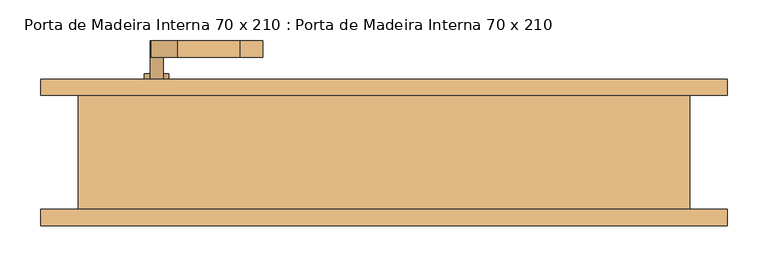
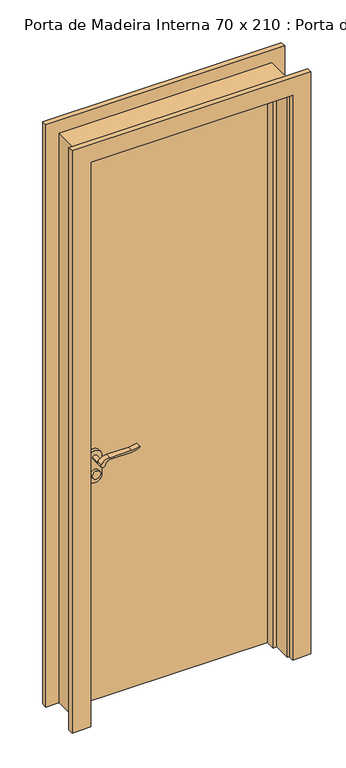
"""IFC4 building model written with IfcOpenShell, lengths in millimetres: door geometry, Porta de Madeira Interna 70 x 210 : Porta de Madeira Interna 70 x 210."""

from ifc_helpers import new_model, si_unit, point, frame, frame_2d, origin, origin_with_axes, place, context, project, spatial, polyline, circle_curve, trimmed, segment, composite_curve, outline, extrude, faceted_brep, source, transform, mapped, element, save


def porta_de_madeira_interna_70_x_210_porta_de_madeira_interna_d0067c94(model_context):
    return source(origin(), model_context, "Body", "SolidModel", [
        extrude(outline(composite_curve([segment(trimmed(circle_curve(frame_2d((854.4, -279.0)), 15.0), [point((854.4, -264.0))], [point((854.4, -294.0))], False, "CARTESIAN"), True, "CONTINUOUS"), segment(trimmed(circle_curve(frame_2d((854.4, -279.0)), 15.0), [point((854.4, -294.0))], [point((854.4, -264.0))], False, "CARTESIAN"), True, "CONTINUOUS")], self_intersect=False)), frame((0.0, 83.975, 0.0), z_axis=(0.0, 1.0, 0.0), x_axis=(0.0, 0.0, 1.0)), (0.0, 0.0, 1.0), 10.0),
        extrude(outline(composite_curve([segment(trimmed(circle_curve(frame_2d((854.4, -279.0)), 15.0), [point((854.4, -264.0))], [point((854.4, -294.0))], False, "CARTESIAN"), True, "CONTINUOUS"), segment(trimmed(circle_curve(frame_2d((854.4, -279.0)), 15.0), [point((854.4, -294.0))], [point((854.4, -264.0))], False, "CARTESIAN"), True, "CONTINUOUS")], self_intersect=False)), frame((0.0, 3.975, 0.0), z_axis=(0.0, 1.0, 0.0), x_axis=(0.0, 0.0, 1.0)), (0.0, 0.0, 1.0), 10.0),
        extrude(outline(composite_curve([segment(trimmed(circle_curve(frame_2d((914.4, -279.0)), 8.0), [point((919.0523287, -285.5081363))], [point((914.4, -271.0))], False, "CARTESIAN"), True, "CONTINUOUS"), segment(trimmed(circle_curve(frame_2d((909.2738613, -253.6138099)), 18.1261387), [point((914.4, -271.0))], [point((927.4, -253.6138099))], True, "CARTESIAN"), True, "CONTINUOUS"), segment(polyline([(927.4, -253.6138099), (927.4, -177.3564091)]), True, "CONTINUOUS"), segment(trimmed(circle_curve(frame_2d((986.6709207, -180.9396612)), 59.3791355), [point((927.4, -177.3564091))], [point((936.6135558, -149.0))], False, "CARTESIAN"), True, "CONTINUOUS"), segment(polyline([(936.6135558, -149.0), (939.4, -149.0)]), True, "CONTINUOUS"), segment(trimmed(circle_curve(frame_2d((1017.6850638, -177.4227909)), 83.2850902), [point((939.4, -149.0))], [point((934.4, -177.3564091))], True, "CARTESIAN"), True, "CONTINUOUS"), segment(polyline([(934.4, -177.3564091), (934.4, -253.6325667)]), True, "CONTINUOUS"), segment(trimmed(circle_curve(frame_2d((897.1555521, -255.3324871)), 37.2832219), [point((934.4, -253.6325667))], [point((919.0523287, -285.5081363))], False, "CARTESIAN"), True, "CONTINUOUS")], self_intersect=False)), frame((0.0, 113.975, 0.0), z_axis=(0.0, 1.0, 0.0), x_axis=(0.0, 0.0, 1.0)), (0.0, 0.0, 1.0), 20.0),
        extrude(outline(composite_curve([segment(trimmed(circle_curve(frame_2d((909.2738682, -253.6138122)), 18.1261318), [point((914.3999903, -271.0))], [point((927.4, -253.6138122))], True, "CARTESIAN"), True, "CONTINUOUS"), segment(polyline([(927.4, -253.6138122), (927.4, -177.3564091)]), True, "CONTINUOUS"), segment(trimmed(circle_curve(frame_2d((986.6709207, -180.9396612)), 59.3791355), [point((927.4, -177.3564091))], [point((936.6135558, -149.0))], False, "CARTESIAN"), True, "CONTINUOUS"), segment(polyline([(936.6135558, -149.0), (939.4, -149.0)]), True, "CONTINUOUS"), segment(trimmed(circle_curve(frame_2d((1017.6850638, -177.4227909)), 83.2850902), [point((939.4, -149.0))], [point((934.4, -177.3564091))], True, "CARTESIAN"), True, "CONTINUOUS"), segment(polyline([(934.4, -177.3564091), (934.4, -253.6325667)]), True, "CONTINUOUS"), segment(trimmed(circle_curve(frame_2d((897.1555521, -255.3324871)), 37.2832219), [point((934.4, -253.6325667))], [point((919.0523287, -285.5081363))], False, "CARTESIAN"), True, "CONTINUOUS"), segment(trimmed(circle_curve(frame_2d((914.4, -279.0)), 8.0), [point((919.0523287, -285.5081363))], [point((914.3999903, -271.0))], False, "CARTESIAN"), True, "CONTINUOUS")], self_intersect=False)), frame((0.0, -36.025, 0.0), z_axis=(0.0, 1.0, 0.0), x_axis=(0.0, 0.0, 1.0)), (0.0, 0.0, 1.0), 20.0),
        extrude(outline(composite_curve([segment(trimmed(circle_curve(frame_2d((914.4, -279.0)), 8.0), [point((914.4, -271.0))], [point((914.4, -287.0))], False, "CARTESIAN"), True, "CONTINUOUS"), segment(trimmed(circle_curve(frame_2d((914.4, -279.0)), 8.0), [point((914.4, -287.0))], [point((914.4, -271.0))], False, "CARTESIAN"), True, "CONTINUOUS")], self_intersect=False)), frame((0.0, 83.975, 0.0), z_axis=(0.0, 1.0, 0.0), x_axis=(0.0, 0.0, 1.0)), (0.0, 0.0, 1.0), 30.0),
        extrude(outline(composite_curve([segment(trimmed(circle_curve(frame_2d((914.4, -279.0)), 8.0), [point((914.4, -271.0))], [point((914.4, -287.0))], False, "CARTESIAN"), True, "CONTINUOUS"), segment(trimmed(circle_curve(frame_2d((914.4, -279.0)), 8.0), [point((914.4, -287.0))], [point((914.4, -271.0))], False, "CARTESIAN"), True, "CONTINUOUS")], self_intersect=False)), frame((0.0, -16.025, 0.0), z_axis=(0.0, 1.0, 0.0), x_axis=(0.0, 0.0, 1.0)), (0.0, 0.0, 1.0), 30.0),
        extrude(outline(composite_curve([segment(trimmed(circle_curve(frame_2d((844.4, -279.0)), 25.0), [point((844.4, -304.0))], [point((844.4, -254.0))], False, "CARTESIAN"), True, "CONTINUOUS"), segment(polyline([(844.4, -254.0), (914.4, -254.0)]), True, "CONTINUOUS"), segment(trimmed(circle_curve(frame_2d((914.4, -279.0)), 25.0), [point((914.4, -254.0))], [point((914.4, -304.0))], False, "CARTESIAN"), True, "CONTINUOUS"), segment(polyline([(914.4, -304.0), (844.4, -304.0)]), True, "CONTINUOUS")], self_intersect=False)), frame((0.0, 73.975, 0.0), z_axis=(0.0, 1.0, 0.0), x_axis=(0.0, 0.0, 1.0)), (0.0, 0.0, 1.0), 10.0),
        extrude(outline(composite_curve([segment(trimmed(circle_curve(frame_2d((844.4, -279.0)), 25.0), [point((844.4, -304.0))], [point((844.4, -254.0))], False, "CARTESIAN"), True, "CONTINUOUS"), segment(polyline([(844.4, -254.0), (914.4, -254.0)]), True, "CONTINUOUS"), segment(trimmed(circle_curve(frame_2d((914.4, -279.0)), 25.0), [point((914.4, -254.0))], [point((914.4, -304.0))], False, "CARTESIAN"), True, "CONTINUOUS"), segment(polyline([(914.4, -304.0), (844.4, -304.0)]), True, "CONTINUOUS")], self_intersect=False)), frame((0.0, 13.975, 0.0), z_axis=(0.0, 1.0, 0.0), x_axis=(0.0, 0.0, 1.0)), (0.0, 0.0, 1.0), 10.0),
        extrude(outline(polyline([(350.0, 26.825), (-350.0, 26.825), (-350.0, 66.825), (350.0, 66.825), (350.0, 26.825)])), origin_with_axes(), (0.0, 0.0, 1.0), 2100.0),
        faceted_brep([(375.0, 66.825, 0.0), (375.0, -73.175, 0.0), (350.0, -73.175, 0.0), (350.0, -8.1, 0.0), (337.3, -8.1, 0.0), (337.3, 26.825, 0.0), (350.0, 26.825, 0.0), (350.0, 66.825, 0.0), (375.0, 66.825, 2125.0), (375.0, -73.175, 2125.0), (-375.0, -73.175, 2125.0), (-375.0, -73.175, 0.0), (-350.0, -73.175, 0.0), (-350.0, -73.175, 2100.0), (350.0, -73.175, 2100.0), (350.0, -8.1, 2100.0), (-350.0, -8.1, 2100.0), (-350.0, -8.1, 0.0), (-337.3, -8.1, 0.0), (-337.3, -8.1, 2087.3), (337.3, -8.1, 2087.3), (337.3, 26.825, 2087.3), (-337.3, 26.825, 2087.3), (-337.3, 26.825, 0.0), (-350.0, 26.825, 0.0), (-350.0, 26.825, 2100.0), (350.0, 26.825, 2100.0), (350.0, 66.825, 2100.0), (-350.0, 66.825, 2100.0), (-350.0, 66.825, 0.0), (-375.0, 66.825, 0.0), (-375.0, 66.825, 2125.0)], [[[0, 1, 2, 3, 4, 5, 6, 7]], [[1, 0, 8, 9]], [[2, 1, 9, 10, 11, 12, 13, 14]], [[3, 2, 14, 15]], [[4, 3, 15, 16, 17, 18, 19, 20]], [[5, 4, 20, 21]], [[6, 5, 21, 22, 23, 24, 25, 26]], [[7, 6, 26, 27]], [[0, 7, 27, 28, 29, 30, 31, 8]], [[9, 8, 31, 10]], [[15, 14, 13, 16]], [[21, 20, 19, 22]], [[27, 26, 25, 28]], [[30, 29, 24, 23, 18, 17, 12, 11]], [[10, 31, 30, 11]], [[16, 13, 12, 17]], [[22, 19, 18, 23]], [[28, 25, 24, 29]]]),
        extrude(outline(polyline([(0.0, 356.35), (0.0, 421.35), (2171.35, 421.35), (2171.35, -421.35), (0.0, -421.35), (0.0, -356.35), (2106.35, -356.35), (2106.35, 356.35), (0.0, 356.35)])), frame((0.0, -93.175, 0.0), z_axis=(0.0, 1.0, 0.0), x_axis=(0.0, 0.0, 1.0)), (0.0, 0.0, 1.0), 20.0),
        extrude(outline(polyline([(0.0, 356.35), (0.0, 421.35), (2171.35, 421.35), (2171.35, -421.35), (0.0, -421.35), (0.0, -356.35), (2106.35, -356.35), (2106.35, 356.35), (0.0, 356.35)])), frame((0.0, 66.825, 0.0), z_axis=(0.0, 1.0, 0.0), x_axis=(0.0, 0.0, 1.0)), (0.0, 0.0, 1.0), 20.0),
    ])


if __name__ == "__main__":
    model = new_model("IFC4")
    model_context = context("Model", 3, world=origin())
    ifc_project = project(units=[si_unit("LENGTHUNIT", "METRE", prefix="MILLI")], contexts=[model_context])
    site = spatial("IfcSite", under=ifc_project)
    building = spatial("IfcBuilding", under=site)
    placement = place(None, origin())
    porta_de_madeira_interna_70_x_210_porta_de_madeira_interna_shape = porta_de_madeira_interna_70_x_210_porta_de_madeira_interna_d0067c94(model_context)
    element("IfcDoor", 1, ObjectType="Porta de Madeira Interna 70 x 210 : Porta de Madeira Interna 70 x 210", at=placement, inside=building, context=model_context, shape_type="MappedRepresentation", body=[
        mapped(porta_de_madeira_interna_70_x_210_porta_de_madeira_interna_shape, transform((0.0, 0.0, 0.0), x_axis=(1.0, 0.0, 0.0), y_axis=(0.0, 1.0, 0.0), z_axis=(0.0, 0.0, 1.0))),
    ])
    save(model, "model.ifc")
